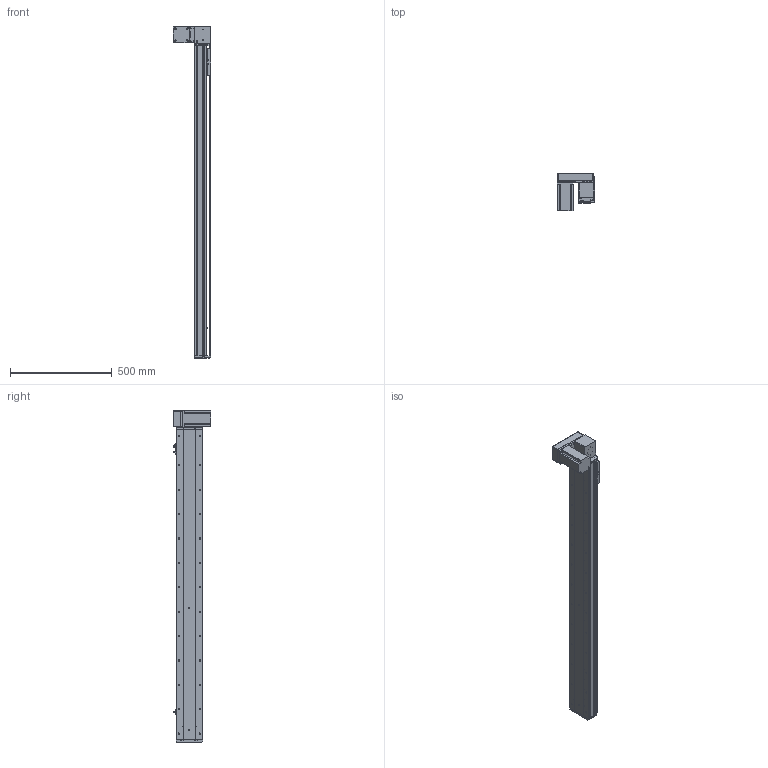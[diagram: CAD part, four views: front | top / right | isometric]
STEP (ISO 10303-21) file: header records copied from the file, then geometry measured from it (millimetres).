
FILE_DESCRIPTION (( 'STEP AP214' ), '1' );
FILE_NAME ('KSD130B-S1300-MRD-CM.STEP', '2019-09-23T01:50:47', ( '微软用户' ), ( '微软中国' ), 'SwSTEP 2.0', 'SolidWorks 2014', '' );
FILE_SCHEMA (( 'AUTOMOTIVE_DESIGN' ));
Length unit declared in the file: millimetre
Products named in the file (12): KSD130B-S1300-MRD-CM; 130宽模组保护罩上下左右折-同步带; 台达ECMA－C20807AS伺服电机; 130宽模组马达安装板连板上下折丝杆同步带; 覜茼え100遵圉猾敕; U倰嫖萇EEㄜSX672; 130宽盖板半封闭同步带-1300行程; 130宽马达安装板同步带右-改镜向_默认<按加工>; 130宽马达安装板同步带半封闭; 130宽同步带安装座半封闭; 130宽端盖同步带半封闭; 130宽底板半封闭同步带-1300行程
Assembly tree (13 placements, depth 2):
  KSD130B-S1300-MRD-CM
    130宽底板半封闭同步带-1300行程
    130宽端盖同步带半封闭
    130宽同步带安装座半封闭
    130宽马达安装板同步带半封闭
    130宽马达安装板同步带右-改镜向_默认<按加工>
    130宽盖板半封闭同步带-1300行程
    U倰嫖萇EEㄜSX672  x3
    覜茼え100遵圉猾敕
    130宽模组马达安装板连板上下折丝杆同步带
    台达ECMA－C20807AS伺服电机
    130宽模组保护罩上下左右折-同步带
Bounding box: 186 x 184.8 x 1633 mm (x, y, z)
Volume: 5775573 mm3; surface area: 1604777.3 mm2
Topology: 14 solids, 14 shells, 1607 faces, 4625 edges, 2941 vertices
Faces by surface type: cylinder 778, plane 634, cone 195
Entity records: 53627 total; most frequent: CARTESIAN_POINT 10114, DIRECTION 8135, ORIENTED_EDGE 7846, EDGE_CURVE 3923, AXIS2_PLACEMENT_3D 2982, VERTEX_POINT 2565, LINE 2171, VECTOR 2171
